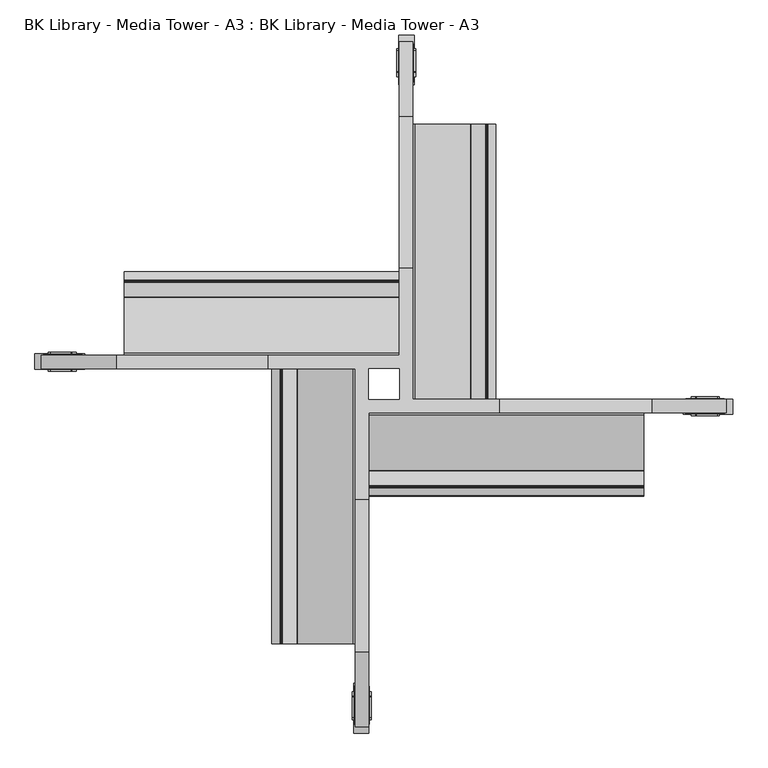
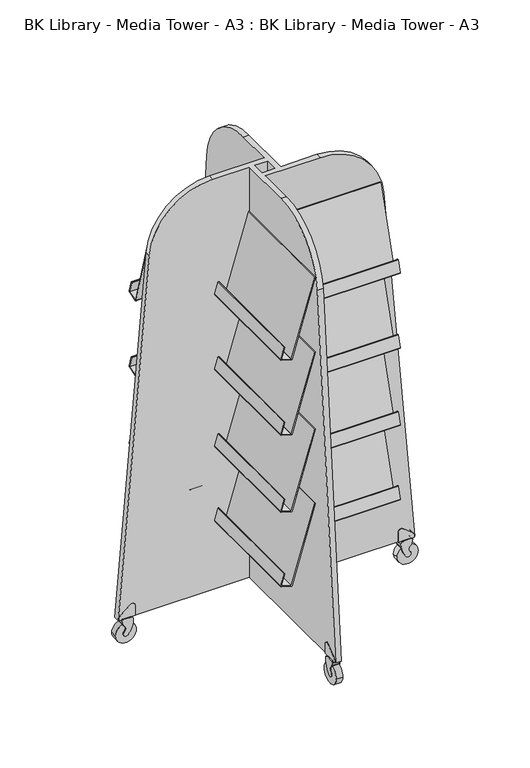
"""IFC4 building model written with IfcOpenShell, lengths in millimetres: furniture geometry, BK Library - Media Tower - A3 : BK Library - Media Tower - A3."""

from ifc_helpers import new_model, si_unit, point, frame, frame_2d, origin, place, context, project, spatial, polyline, circle_curve, trimmed, segment, composite_curve, outline, extrude, source, transform, mapped, element, save
from ifc_brep_helpers import plane_surface, cylinder_surface, advanced_brep


def bk_library_media_tower_a3_bk_library_media_tower_a3_d0b234ae(model_context):
    return source(origin(), model_context, "Body", "SolidModel", [
        advanced_brep(
        [(23.9997531, -23.9998872, 1726.129232), (23.9997531, 23.9997531, 1726.129232), (23.9997531, 23.9997531, 96.1292341), (23.9997531, -23.9998872, 96.1292341), (23.9997531, 181.3900437, 1726.129232), (23.9997531, 420.5618014, 1506.0508363), (23.9997531, 537.9999993, 96.1292341), (23.9997531, 44.9998628, 96.1292341), (23.9997531, 44.9998628, 1726.129232), (44.9998628, -23.9998872, 96.1292341), (44.9998628, 537.9999993, 96.1292341), (44.9998628, 420.5618014, 1506.0508363), (44.9998628, 181.3900437, 1726.129232), (44.9998628, -23.9998872, 1726.129232), (537.9999993, -23.9997531, 96.1292341), (537.9999993, -44.9998628, 96.1292341), (-23.9998872, -44.9998628, 96.1292341), (-23.9997531, -537.9999993, 96.1292341), (-44.9998628, -537.9999993, 96.1292341), (-44.9998628, 23.9998872, 96.1292341), (-537.9999993, 23.9997531, 96.1292341), (-537.9999993, 44.9998628, 96.1292341), (-23.9997531, 23.9998872, 96.1292341), (-23.9997531, -23.9997531, 96.1292341), (-181.3900437, 44.9998628, 1726.129232), (-181.3900437, 23.9997531, 1726.129232), (-44.9998628, 23.9997531, 1726.129232), (-44.9998628, -181.3900437, 1726.129232), (-23.9997531, -181.3900437, 1726.129232), (-23.9997531, -44.9998628, 1726.129232), (181.3900437, -44.9998628, 1726.129232), (181.3900437, -23.9997531, 1726.129232), (-23.9998872, -23.9997531, 1726.129232), (-23.9997531, 23.9998872, 1726.129232), (-420.5618014, 23.9997531, 1506.0508363), (-420.5618014, 44.9998628, 1506.0508363), (-23.9997531, -420.5618014, 1506.0508363), (-44.9998628, -420.5618014, 1506.0508363), (420.5618014, -23.9997531, 1506.0508363), (420.5618014, -44.9998628, 1506.0508363)],
        [
            (0, 1),
            (1, 2),
            (2, 3),
            (3, 0),
            (4, 5, circle_curve(frame((23.9997531, 181.3900437, 1486.129232), z_axis=(-1.0, 0.0, 0.0), x_axis=(0.0, -1.0, 0.0)), 240.0)),
            (5, 6),
            (6, 7),
            (7, 8),
            (8, 4),
            (9, 10),
            (10, 11),
            (11, 12, circle_curve(frame((44.9998628, 181.3900437, 1486.129232), z_axis=(1.0, 0.0, 0.0), x_axis=(0.0, -1.0, 0.0)), 240.0)),
            (12, 13),
            (13, 9),
            (9, 14),
            (14, 15),
            (15, 16),
            (16, 17),
            (17, 18),
            (18, 19),
            (19, 20),
            (20, 21),
            (21, 7),
            (6, 10),
            (22, 23),
            (23, 3),
            (2, 22),
            (12, 4),
            (8, 24),
            (24, 25),
            (25, 26),
            (26, 27),
            (27, 28),
            (28, 29),
            (29, 30),
            (30, 31),
            (31, 13),
            (0, 32),
            (32, 33),
            (33, 1),
            (33, 22),
            (25, 34, circle_curve(frame((-181.3900437, 23.9997531, 1486.129232), z_axis=(0.0, -1.0, 0.0), x_axis=(1.0, 0.0, 0.0)), 240.0)),
            (34, 20),
            (19, 26),
            (21, 35),
            (35, 24, circle_curve(frame((-181.3900437, 44.9998628, 1486.129232), z_axis=(0.0, 1.0, 0.0), x_axis=(1.0, 0.0, 0.0)), 240.0)),
            (32, 23),
            (28, 36, circle_curve(frame((-23.9997531, -181.3900437, 1486.129232), z_axis=(1.0, 0.0, 0.0), x_axis=(0.0, 1.0, 0.0)), 240.0)),
            (36, 17),
            (16, 29),
            (18, 37),
            (37, 27, circle_curve(frame((-44.9998628, -181.3900437, 1486.129232), z_axis=(-1.0, 0.0, 0.0), x_axis=(0.0, 1.0, 0.0)), 240.0)),
            (31, 38, circle_curve(frame((181.3900437, -23.9997531, 1486.129232), z_axis=(0.0, 1.0, 0.0), x_axis=(-1.0, 0.0, 0.0)), 240.0)),
            (38, 14),
            (15, 39),
            (39, 30, circle_curve(frame((181.3900437, -44.9998628, 1486.129232), z_axis=(0.0, -1.0, 0.0), x_axis=(-1.0, 0.0, 0.0)), 240.0)),
            (35, 34),
            (11, 5),
            (37, 36),
            (39, 38),
        ],
        [
            plane_surface(frame((23.9997531, -23.9998872, 1048.4828092), z_axis=(-1.0, 0.0, 0.0), x_axis=(0.0, 0.0, 1.0))),
            plane_surface(frame((44.9998628, -23.9998872, 1048.4828092), z_axis=(1.0, 0.0, 0.0), x_axis=(0.0, 0.0, -1.0))),
            plane_surface(frame((23.9997531, 537.9999993, 96.1292341), z_axis=(0.0, 0.0, -1.0), x_axis=(1.0, 0.0, 0.0))),
            plane_surface(frame((23.9997531, -23.9998872, 1726.129232), z_axis=(0.0, 0.0, 1.0), x_axis=(1.0, 0.0, 0.0))),
            plane_surface(frame((23.9998872, 23.9997531, 1048.4828092), z_axis=(0.0, -1.0, 0.0), x_axis=(0.0, 0.0, 1.0))),
            plane_surface(frame((23.9998872, 44.9998628, 1048.4828092), z_axis=(0.0, 1.0, 0.0), x_axis=(0.0, 0.0, -1.0))),
            plane_surface(frame((-23.9997531, 23.9998872, 1048.4828092), z_axis=(1.0, 0.0, 0.0), x_axis=(0.0, 0.0, 1.0))),
            plane_surface(frame((-44.9998628, 23.9998872, 1048.4828092), z_axis=(-1.0, 0.0, 0.0), x_axis=(0.0, 0.0, -1.0))),
            plane_surface(frame((-23.9998872, -23.9997531, 1048.4828092), z_axis=(0.0, 1.0, 0.0), x_axis=(0.0, 0.0, 1.0))),
            plane_surface(frame((-23.9998872, -44.9998628, 1048.4828092), z_axis=(0.0, -1.0, 0.0), x_axis=(0.0, 0.0, -1.0))),
            cylinder_surface(frame((-181.3900437, 44.9998628, 1486.129232), z_axis=(0.0, -1.0, 0.0), x_axis=(1.0, 0.0, 0.0)), 240.0),
            plane_surface(frame((-420.5618014, 23.9997531, 1506.0508363), z_axis=(-0.9965489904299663, 0.0, 0.08300668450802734), x_axis=(0.0, 1.0, 0.0))),
            cylinder_surface(frame((44.9998628, 181.3900437, 1486.129232), z_axis=(-1.0, 0.0, 0.0), x_axis=(0.0, -1.0, 0.0)), 240.0),
            plane_surface(frame((23.9997531, 420.5618014, 1506.0508363), z_axis=(0.0, 0.9965489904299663, 0.08300668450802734), x_axis=(1.0, 0.0, 0.0))),
            cylinder_surface(frame((-44.9998628, -181.3900437, 1486.129232), z_axis=(1.0, 0.0, 0.0), x_axis=(0.0, 1.0, 0.0)), 240.0),
            plane_surface(frame((-23.9997531, -420.5618014, 1506.0508363), z_axis=(0.0, -0.9965489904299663, 0.08300668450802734), x_axis=(-1.0, 0.0, 0.0))),
            cylinder_surface(frame((181.3900437, -44.9998628, 1486.129232), z_axis=(0.0, 1.0, 0.0), x_axis=(-1.0, 0.0, 0.0)), 240.0),
            plane_surface(frame((420.5618014, -23.9997531, 1506.0508363), z_axis=(0.9965489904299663, 0.0, 0.08300668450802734), x_axis=(0.0, -1.0, 0.0))),
        ],
        [
            (0, [[1, 2, 3, 4]]),
            (0, [[5, 6, 7, 8, 9]]),
            (1, [[10, 11, 12, 13, 14]]),
            (2, [[-10, 15, 16, 17, 18, 19, 20, 21, 22, 23, -7, 24], [25, 26, -3, 27]]),
            (3, [[-13, 28, -9, 29, 30, 31, 32, 33, 34, 35, 36, 37], [-1, 38, 39, 40]]),
            (4, [[-2, -40, 41, -27]]),
            (4, [[42, 43, -21, 44, -31]]),
            (5, [[-23, 45, 46, -29, -8]]),
            (6, [[-41, -39, 47, -25]]),
            (6, [[48, 49, -18, 50, -34]]),
            (7, [[-20, 51, 52, -32, -44]]),
            (8, [[-26, -47, -38, -4]]),
            (8, [[53, 54, -15, -14, -37]]),
            (9, [[-17, 55, 56, -35, -50]]),
            (10, [[-42, -30, -46, 57]]),
            (11, [[-43, -57, -45, -22]]),
            (12, [[-5, -28, -12, 58]]),
            (13, [[-6, -58, -11, -24]]),
            (14, [[-48, -33, -52, 59]]),
            (15, [[-49, -59, -51, -19]]),
            (16, [[-53, -36, -56, 60]]),
            (17, [[-54, -60, -55, -16]]),
        ],
    ),
        extrude(outline(composite_curve([segment(trimmed(circle_curve(frame_2d((135.7205624, 357.3406391)), 3.0), [point((136.5748622, 354.4648484))], [point((132.8447717, 356.4863392))], False, "CARTESIAN"), True, "CONTINUOUS"), segment(polyline([(132.8447717, 356.4863392), (45.3958539, 650.8616489), (40.9645842, 650.8616489), (40.9645842, 652.1310184), (48.1483415, 652.1310184), (135.5781791, 357.8199375)]), True, "CONTINUOUS"), segment(trimmed(circle_curve(frame_2d((136.0574775, 357.9623208)), 0.5), [point((135.5781791, 357.8199375))], [point((136.1998608, 357.4830224))], True, "CARTESIAN"), True, "CONTINUOUS"), segment(polyline([(136.1998608, 357.4830224), (173.0458936, 368.4287287), (160.035737, 412.2242265)]), True, "CONTINUOUS"), segment(trimmed(circle_curve(frame_2d((160.5150354, 412.3666098)), 0.5), [point((160.035737, 412.2242265))], [point((160.3726521, 412.8459082))], False, "CARTESIAN"), True, "CONTINUOUS"), segment(polyline([(160.3726521, 412.8459082), (162.2898458, 413.4154415)]), True, "CONTINUOUS"), segment(trimmed(circle_curve(frame_2d((162.4322292, 412.936143)), 0.5), [point((162.2898458, 413.4154415))], [point((162.9115276, 413.0785263))], False, "CARTESIAN"), True, "CONTINUOUS"), segment(polyline([(162.9115276, 413.0785263), (175.9216842, 369.2830286)]), True, "CONTINUOUS"), segment(trimmed(circle_curve(frame_2d((173.0458936, 368.4287287)), 3.0), [point((175.9216842, 369.2830286))], [point((173.9001934, 365.5529381))], False, "CARTESIAN"), True, "CONTINUOUS"), segment(polyline([(173.9001934, 365.5529381), (136.5748622, 354.4648484)]), True, "CONTINUOUS")], self_intersect=False)), frame((-407.8772926, 0.0, 0.0), z_axis=(1.0, 0.0, 0.0), x_axis=(0.0, 1.0, 0.0)), (0.0, 0.0, 1.0), 431.8770457),
        extrude(outline(composite_curve([segment(trimmed(circle_curve(frame_2d((135.7205624, 653.0401568)), 3.0), [point((136.5748622, 650.1643662))], [point((132.8447717, 652.185857))], False, "CARTESIAN"), True, "CONTINUOUS"), segment(polyline([(132.8447717, 652.185857), (45.3958539, 946.5611666), (40.9645842, 946.5611666), (40.9645842, 947.8305361), (48.1483415, 947.8305361), (135.5781791, 653.5194552)]), True, "CONTINUOUS"), segment(trimmed(circle_curve(frame_2d((136.0574775, 653.6618385)), 0.5), [point((135.5781791, 653.5194552))], [point((136.1998608, 653.1825401))], True, "CARTESIAN"), True, "CONTINUOUS"), segment(polyline([(136.1998608, 653.1825401), (173.0458936, 664.1282464), (160.035737, 707.9237442)]), True, "CONTINUOUS"), segment(trimmed(circle_curve(frame_2d((160.5150354, 708.0661275)), 0.5), [point((160.035737, 707.9237442))], [point((160.3726521, 708.545426))], False, "CARTESIAN"), True, "CONTINUOUS"), segment(polyline([(160.3726521, 708.545426), (162.2898458, 709.1149592)]), True, "CONTINUOUS"), segment(trimmed(circle_curve(frame_2d((162.4322292, 708.6356607)), 0.5), [point((162.2898458, 709.1149592))], [point((162.9115276, 708.778044))], False, "CARTESIAN"), True, "CONTINUOUS"), segment(polyline([(162.9115276, 708.778044), (175.9216842, 664.9825463)]), True, "CONTINUOUS"), segment(trimmed(circle_curve(frame_2d((173.0458936, 664.1282464)), 3.0), [point((175.9216842, 664.9825463))], [point((173.9001934, 661.2524558))], False, "CARTESIAN"), True, "CONTINUOUS"), segment(polyline([(173.9001934, 661.2524558), (136.5748622, 650.1643662)]), True, "CONTINUOUS")], self_intersect=False)), frame((-407.8772926, 0.0, 0.0), z_axis=(1.0, 0.0, 0.0), x_axis=(0.0, 1.0, 0.0)), (0.0, 0.0, 1.0), 431.8770457),
        extrude(outline(composite_curve([segment(trimmed(circle_curve(frame_2d((135.7205624, 958.9406154)), 3.0), [point((136.5748622, 956.0648248))], [point((132.8447717, 958.0863156))], False, "CARTESIAN"), True, "CONTINUOUS"), segment(polyline([(132.8447717, 958.0863156), (45.3958539, 1252.4616252), (40.9645842, 1252.4616252), (40.9645842, 1253.7309947), (48.1483415, 1253.7309947), (135.5781791, 959.4199139)]), True, "CONTINUOUS"), segment(trimmed(circle_curve(frame_2d((136.0574775, 959.5622972)), 0.5), [point((135.5781791, 959.4199139))], [point((136.1998608, 959.0829987))], True, "CARTESIAN"), True, "CONTINUOUS"), segment(polyline([(136.1998608, 959.0829987), (173.0458936, 970.028705), (160.035737, 1013.8242028)]), True, "CONTINUOUS"), segment(trimmed(circle_curve(frame_2d((160.5150354, 1013.9665861)), 0.5), [point((160.035737, 1013.8242028))], [point((160.3726521, 1014.4458846))], False, "CARTESIAN"), True, "CONTINUOUS"), segment(polyline([(160.3726521, 1014.4458846), (162.2898458, 1015.0154178)]), True, "CONTINUOUS"), segment(trimmed(circle_curve(frame_2d((162.4322292, 1014.5361193)), 0.5), [point((162.2898458, 1015.0154178))], [point((162.9115276, 1014.6785027))], False, "CARTESIAN"), True, "CONTINUOUS"), segment(polyline([(162.9115276, 1014.6785027), (175.9216842, 970.8830049)]), True, "CONTINUOUS"), segment(trimmed(circle_curve(frame_2d((173.0458936, 970.028705)), 3.0), [point((175.9216842, 970.8830049))], [point((173.9001934, 967.1529144))], False, "CARTESIAN"), True, "CONTINUOUS"), segment(polyline([(173.9001934, 967.1529144), (136.5748622, 956.0648248)]), True, "CONTINUOUS")], self_intersect=False)), frame((-407.8772926, 0.0, 0.0), z_axis=(1.0, 0.0, 0.0), x_axis=(0.0, 1.0, 0.0)), (0.0, 0.0, 1.0), 431.8770457),
        extrude(outline(composite_curve([segment(trimmed(circle_curve(frame_2d((135.7205624, 1256.9405944)), 3.0), [point((136.5748622, 1254.0648038))], [point((132.8447717, 1256.0862946))], False, "CARTESIAN"), True, "CONTINUOUS"), segment(polyline([(132.8447717, 1256.0862946), (45.3958539, 1550.4616043), (40.9645842, 1550.4616043), (40.9645842, 1551.7309738), (48.1483415, 1551.7309738), (135.5781791, 1257.4198929)]), True, "CONTINUOUS"), segment(trimmed(circle_curve(frame_2d((136.0574775, 1257.5622762)), 0.5), [point((135.5781791, 1257.4198929))], [point((136.1998608, 1257.0829777))], True, "CARTESIAN"), True, "CONTINUOUS"), segment(polyline([(136.1998608, 1257.0829777), (173.0458936, 1268.0286841), (160.035737, 1311.8241818)]), True, "CONTINUOUS"), segment(trimmed(circle_curve(frame_2d((160.5150354, 1311.9665651)), 0.5), [point((160.035737, 1311.8241818))], [point((160.3726521, 1312.4458636))], False, "CARTESIAN"), True, "CONTINUOUS"), segment(polyline([(160.3726521, 1312.4458636), (162.2898458, 1313.0153968)]), True, "CONTINUOUS"), segment(trimmed(circle_curve(frame_2d((162.4322292, 1312.5360984)), 0.5), [point((162.2898458, 1313.0153968))], [point((162.9115276, 1312.6784817))], False, "CARTESIAN"), True, "CONTINUOUS"), segment(polyline([(162.9115276, 1312.6784817), (175.9216842, 1268.8829839)]), True, "CONTINUOUS"), segment(trimmed(circle_curve(frame_2d((173.0458936, 1268.0286841)), 3.0), [point((175.9216842, 1268.8829839))], [point((173.9001934, 1265.1528934))], False, "CARTESIAN"), True, "CONTINUOUS"), segment(polyline([(173.9001934, 1265.1528934), (136.5748622, 1254.0648038)]), True, "CONTINUOUS")], self_intersect=False)), frame((-407.8772926, 0.0, 0.0), z_axis=(1.0, 0.0, 0.0), x_axis=(0.0, 1.0, 0.0)), (0.0, 0.0, 1.0), 431.8770457),
        extrude(outline(composite_curve([segment(polyline([(354.4648484, 136.5748622), (365.5529381, 173.9001934)]), True, "CONTINUOUS"), segment(trimmed(circle_curve(frame_2d((368.4287287, 173.0458936)), 3.0), [point((365.5529381, 173.9001934))], [point((369.2830286, 175.9216842))], False, "CARTESIAN"), True, "CONTINUOUS"), segment(polyline([(369.2830286, 175.9216842), (413.0785263, 162.9115276)]), True, "CONTINUOUS"), segment(trimmed(circle_curve(frame_2d((412.936143, 162.4322292)), 0.5), [point((413.0785263, 162.9115276))], [point((413.4154415, 162.2898458))], False, "CARTESIAN"), True, "CONTINUOUS"), segment(polyline([(413.4154415, 162.2898458), (412.8459082, 160.3726521)]), True, "CONTINUOUS"), segment(trimmed(circle_curve(frame_2d((412.3666098, 160.5150354)), 0.5), [point((412.8459082, 160.3726521))], [point((412.2242265, 160.035737))], False, "CARTESIAN"), True, "CONTINUOUS"), segment(polyline([(412.2242265, 160.035737), (368.4287287, 173.0458936), (357.4830224, 136.1998608)]), True, "CONTINUOUS"), segment(trimmed(circle_curve(frame_2d((357.9623208, 136.0574775)), 0.5), [point((357.4830224, 136.1998608))], [point((357.8199375, 135.5781791))], True, "CARTESIAN"), True, "CONTINUOUS"), segment(polyline([(357.8199375, 135.5781791), (652.1310184, 48.1483415), (652.1310184, 40.9645842), (650.8616489, 40.9645842), (650.8616489, 45.3958539), (356.4863392, 132.8447717)]), True, "CONTINUOUS"), segment(trimmed(circle_curve(frame_2d((357.3406391, 135.7205624)), 3.0), [point((356.4863392, 132.8447717))], [point((354.4648484, 136.5748622))], False, "CARTESIAN"), True, "CONTINUOUS")], self_intersect=False)), frame((0.0, -23.9997531, 0.0), z_axis=(0.0, 1.0, 0.0), x_axis=(0.0, 0.0, 1.0)), (0.0, 0.0, 1.0), 431.8770457),
        extrude(outline(composite_curve([segment(polyline([(650.1643662, 136.5748622), (661.2524558, 173.9001934)]), True, "CONTINUOUS"), segment(trimmed(circle_curve(frame_2d((664.1282464, 173.0458936)), 3.0), [point((661.2524558, 173.9001934))], [point((664.9825463, 175.9216842))], False, "CARTESIAN"), True, "CONTINUOUS"), segment(polyline([(664.9825463, 175.9216842), (708.778044, 162.9115276)]), True, "CONTINUOUS"), segment(trimmed(circle_curve(frame_2d((708.6356607, 162.4322292)), 0.5), [point((708.778044, 162.9115276))], [point((709.1149592, 162.2898458))], False, "CARTESIAN"), True, "CONTINUOUS"), segment(polyline([(709.1149592, 162.2898458), (708.545426, 160.3726521)]), True, "CONTINUOUS"), segment(trimmed(circle_curve(frame_2d((708.0661275, 160.5150354)), 0.5), [point((708.545426, 160.3726521))], [point((707.9237442, 160.035737))], False, "CARTESIAN"), True, "CONTINUOUS"), segment(polyline([(707.9237442, 160.035737), (664.1282464, 173.0458936), (653.1825401, 136.1998608)]), True, "CONTINUOUS"), segment(trimmed(circle_curve(frame_2d((653.6618385, 136.0574775)), 0.5), [point((653.1825401, 136.1998608))], [point((653.5194552, 135.5781791))], True, "CARTESIAN"), True, "CONTINUOUS"), segment(polyline([(653.5194552, 135.5781791), (947.8305361, 48.1483415), (947.8305361, 40.9645842), (946.5611666, 40.9645842), (946.5611666, 45.3958539), (652.185857, 132.8447717)]), True, "CONTINUOUS"), segment(trimmed(circle_curve(frame_2d((653.0401568, 135.7205624)), 3.0), [point((652.185857, 132.8447717))], [point((650.1643662, 136.5748622))], False, "CARTESIAN"), True, "CONTINUOUS")], self_intersect=False)), frame((0.0, -23.9997531, 0.0), z_axis=(0.0, 1.0, 0.0), x_axis=(0.0, 0.0, 1.0)), (0.0, 0.0, 1.0), 431.8770457),
        extrude(outline(composite_curve([segment(polyline([(956.0648248, 136.5748622), (967.1529144, 173.9001934)]), True, "CONTINUOUS"), segment(trimmed(circle_curve(frame_2d((970.028705, 173.0458936)), 3.0), [point((967.1529144, 173.9001934))], [point((970.8830049, 175.9216842))], False, "CARTESIAN"), True, "CONTINUOUS"), segment(polyline([(970.8830049, 175.9216842), (1014.6785027, 162.9115276)]), True, "CONTINUOUS"), segment(trimmed(circle_curve(frame_2d((1014.5361193, 162.4322292)), 0.5), [point((1014.6785027, 162.9115276))], [point((1015.0154178, 162.2898458))], False, "CARTESIAN"), True, "CONTINUOUS"), segment(polyline([(1015.0154178, 162.2898458), (1014.4458846, 160.3726521)]), True, "CONTINUOUS"), segment(trimmed(circle_curve(frame_2d((1013.9665861, 160.5150354)), 0.5), [point((1014.4458846, 160.3726521))], [point((1013.8242028, 160.035737))], False, "CARTESIAN"), True, "CONTINUOUS"), segment(polyline([(1013.8242028, 160.035737), (970.028705, 173.0458936), (959.0829987, 136.1998608)]), True, "CONTINUOUS"), segment(trimmed(circle_curve(frame_2d((959.5622972, 136.0574775)), 0.5), [point((959.0829987, 136.1998608))], [point((959.4199139, 135.5781791))], True, "CARTESIAN"), True, "CONTINUOUS"), segment(polyline([(959.4199139, 135.5781791), (1253.7309947, 48.1483415), (1253.7309947, 40.9645842), (1252.4616252, 40.9645842), (1252.4616252, 45.3958539), (958.0863156, 132.8447717)]), True, "CONTINUOUS"), segment(trimmed(circle_curve(frame_2d((958.9406154, 135.7205624)), 3.0), [point((958.0863156, 132.8447717))], [point((956.0648248, 136.5748622))], False, "CARTESIAN"), True, "CONTINUOUS")], self_intersect=False)), frame((0.0, -23.9997531, 0.0), z_axis=(0.0, 1.0, 0.0), x_axis=(0.0, 0.0, 1.0)), (0.0, 0.0, 1.0), 431.8770457),
        extrude(outline(composite_curve([segment(polyline([(1254.0648038, 136.5748622), (1265.1528934, 173.9001934)]), True, "CONTINUOUS"), segment(trimmed(circle_curve(frame_2d((1268.0286841, 173.0458936)), 3.0), [point((1265.1528934, 173.9001934))], [point((1268.8829839, 175.9216842))], False, "CARTESIAN"), True, "CONTINUOUS"), segment(polyline([(1268.8829839, 175.9216842), (1312.6784817, 162.9115276)]), True, "CONTINUOUS"), segment(trimmed(circle_curve(frame_2d((1312.5360984, 162.4322292)), 0.5), [point((1312.6784817, 162.9115276))], [point((1313.0153968, 162.2898458))], False, "CARTESIAN"), True, "CONTINUOUS"), segment(polyline([(1313.0153968, 162.2898458), (1312.4458636, 160.3726521)]), True, "CONTINUOUS"), segment(trimmed(circle_curve(frame_2d((1311.9665651, 160.5150354)), 0.5), [point((1312.4458636, 160.3726521))], [point((1311.8241818, 160.035737))], False, "CARTESIAN"), True, "CONTINUOUS"), segment(polyline([(1311.8241818, 160.035737), (1268.0286841, 173.0458936), (1257.0829777, 136.1998608)]), True, "CONTINUOUS"), segment(trimmed(circle_curve(frame_2d((1257.5622762, 136.0574775)), 0.5), [point((1257.0829777, 136.1998608))], [point((1257.4198929, 135.5781791))], True, "CARTESIAN"), True, "CONTINUOUS"), segment(polyline([(1257.4198929, 135.5781791), (1551.7309738, 48.1483415), (1551.7309738, 40.9645842), (1550.4616043, 40.9645842), (1550.4616043, 45.3958539), (1256.0862946, 132.8447717)]), True, "CONTINUOUS"), segment(trimmed(circle_curve(frame_2d((1256.9405944, 135.7205624)), 3.0), [point((1256.0862946, 132.8447717))], [point((1254.0648038, 136.5748622))], False, "CARTESIAN"), True, "CONTINUOUS")], self_intersect=False)), frame((0.0, -23.9997531, 0.0), z_axis=(0.0, 1.0, 0.0), x_axis=(0.0, 0.0, 1.0)), (0.0, 0.0, 1.0), 431.8770457),
        extrude(outline(composite_curve([segment(polyline([(-136.5748622, 354.4648484), (-173.9001934, 365.5529381)]), True, "CONTINUOUS"), segment(trimmed(circle_curve(frame_2d((-173.0458936, 368.4287287)), 3.0), [point((-173.9001934, 365.5529381))], [point((-175.9216842, 369.2830286))], False, "CARTESIAN"), True, "CONTINUOUS"), segment(polyline([(-175.9216842, 369.2830286), (-162.9115276, 413.0785263)]), True, "CONTINUOUS"), segment(trimmed(circle_curve(frame_2d((-162.4322292, 412.936143)), 0.5), [point((-162.9115276, 413.0785263))], [point((-162.2898458, 413.4154415))], False, "CARTESIAN"), True, "CONTINUOUS"), segment(polyline([(-162.2898458, 413.4154415), (-160.3726521, 412.8459082)]), True, "CONTINUOUS"), segment(trimmed(circle_curve(frame_2d((-160.5150354, 412.3666098)), 0.5), [point((-160.3726521, 412.8459082))], [point((-160.035737, 412.2242265))], False, "CARTESIAN"), True, "CONTINUOUS"), segment(polyline([(-160.035737, 412.2242265), (-173.0458936, 368.4287287), (-136.1998608, 357.4830224)]), True, "CONTINUOUS"), segment(trimmed(circle_curve(frame_2d((-136.0574775, 357.9623208)), 0.5), [point((-136.1998608, 357.4830224))], [point((-135.5781791, 357.8199375))], True, "CARTESIAN"), True, "CONTINUOUS"), segment(polyline([(-135.5781791, 357.8199375), (-48.1483415, 652.1310184), (-40.9645842, 652.1310184), (-40.9645842, 650.8616489), (-45.3958539, 650.8616489), (-132.8447717, 356.4863392)]), True, "CONTINUOUS"), segment(trimmed(circle_curve(frame_2d((-135.7205624, 357.3406391)), 3.0), [point((-132.8447717, 356.4863392))], [point((-136.5748622, 354.4648484))], False, "CARTESIAN"), True, "CONTINUOUS")], self_intersect=False)), frame((-23.9997531, 0.0, 0.0), z_axis=(1.0, 0.0, 0.0), x_axis=(0.0, 1.0, 0.0)), (0.0, 0.0, 1.0), 431.8770457),
        extrude(outline(composite_curve([segment(polyline([(-136.5748622, 650.1643662), (-173.9001934, 661.2524558)]), True, "CONTINUOUS"), segment(trimmed(circle_curve(frame_2d((-173.0458936, 664.1282464)), 3.0), [point((-173.9001934, 661.2524558))], [point((-175.9216842, 664.9825463))], False, "CARTESIAN"), True, "CONTINUOUS"), segment(polyline([(-175.9216842, 664.9825463), (-162.9115276, 708.778044)]), True, "CONTINUOUS"), segment(trimmed(circle_curve(frame_2d((-162.4322292, 708.6356607)), 0.5), [point((-162.9115276, 708.778044))], [point((-162.2898458, 709.1149592))], False, "CARTESIAN"), True, "CONTINUOUS"), segment(polyline([(-162.2898458, 709.1149592), (-160.3726521, 708.545426)]), True, "CONTINUOUS"), segment(trimmed(circle_curve(frame_2d((-160.5150354, 708.0661275)), 0.5), [point((-160.3726521, 708.545426))], [point((-160.035737, 707.9237442))], False, "CARTESIAN"), True, "CONTINUOUS"), segment(polyline([(-160.035737, 707.9237442), (-173.0458936, 664.1282464), (-136.1998608, 653.1825401)]), True, "CONTINUOUS"), segment(trimmed(circle_curve(frame_2d((-136.0574775, 653.6618385)), 0.5), [point((-136.1998608, 653.1825401))], [point((-135.5781791, 653.5194552))], True, "CARTESIAN"), True, "CONTINUOUS"), segment(polyline([(-135.5781791, 653.5194552), (-48.1483415, 947.8305361), (-40.9645842, 947.8305361), (-40.9645842, 946.5611666), (-45.3958539, 946.5611666), (-132.8447717, 652.185857)]), True, "CONTINUOUS"), segment(trimmed(circle_curve(frame_2d((-135.7205624, 653.0401568)), 3.0), [point((-132.8447717, 652.185857))], [point((-136.5748622, 650.1643662))], False, "CARTESIAN"), True, "CONTINUOUS")], self_intersect=False)), frame((-23.9997531, 0.0, 0.0), z_axis=(1.0, 0.0, 0.0), x_axis=(0.0, 1.0, 0.0)), (0.0, 0.0, 1.0), 431.8770457),
        extrude(outline(composite_curve([segment(polyline([(-136.5748622, 956.0648248), (-173.9001934, 967.1529144)]), True, "CONTINUOUS"), segment(trimmed(circle_curve(frame_2d((-173.0458936, 970.028705)), 3.0), [point((-173.9001934, 967.1529144))], [point((-175.9216842, 970.8830049))], False, "CARTESIAN"), True, "CONTINUOUS"), segment(polyline([(-175.9216842, 970.8830049), (-162.9115276, 1014.6785027)]), True, "CONTINUOUS"), segment(trimmed(circle_curve(frame_2d((-162.4322292, 1014.5361193)), 0.5), [point((-162.9115276, 1014.6785027))], [point((-162.2898458, 1015.0154178))], False, "CARTESIAN"), True, "CONTINUOUS"), segment(polyline([(-162.2898458, 1015.0154178), (-160.3726521, 1014.4458846)]), True, "CONTINUOUS"), segment(trimmed(circle_curve(frame_2d((-160.5150354, 1013.9665861)), 0.5), [point((-160.3726521, 1014.4458846))], [point((-160.035737, 1013.8242028))], False, "CARTESIAN"), True, "CONTINUOUS"), segment(polyline([(-160.035737, 1013.8242028), (-173.0458936, 970.028705), (-136.1998608, 959.0829987)]), True, "CONTINUOUS"), segment(trimmed(circle_curve(frame_2d((-136.0574775, 959.5622972)), 0.5), [point((-136.1998608, 959.0829987))], [point((-135.5781791, 959.4199139))], True, "CARTESIAN"), True, "CONTINUOUS"), segment(polyline([(-135.5781791, 959.4199139), (-48.1483415, 1253.7309947), (-40.9645842, 1253.7309947), (-40.9645842, 1252.4616252), (-45.3958539, 1252.4616252), (-132.8447717, 958.0863156)]), True, "CONTINUOUS"), segment(trimmed(circle_curve(frame_2d((-135.7205624, 958.9406154)), 3.0), [point((-132.8447717, 958.0863156))], [point((-136.5748622, 956.0648248))], False, "CARTESIAN"), True, "CONTINUOUS")], self_intersect=False)), frame((-23.9997531, 0.0, 0.0), z_axis=(1.0, 0.0, 0.0), x_axis=(0.0, 1.0, 0.0)), (0.0, 0.0, 1.0), 431.8770457),
        extrude(outline(composite_curve([segment(polyline([(-136.5748622, 1254.0648038), (-173.9001934, 1265.1528934)]), True, "CONTINUOUS"), segment(trimmed(circle_curve(frame_2d((-173.0458936, 1268.0286841)), 3.0), [point((-173.9001934, 1265.1528934))], [point((-175.9216842, 1268.8829839))], False, "CARTESIAN"), True, "CONTINUOUS"), segment(polyline([(-175.9216842, 1268.8829839), (-162.9115276, 1312.6784817)]), True, "CONTINUOUS"), segment(trimmed(circle_curve(frame_2d((-162.4322292, 1312.5360984)), 0.5), [point((-162.9115276, 1312.6784817))], [point((-162.2898458, 1313.0153968))], False, "CARTESIAN"), True, "CONTINUOUS"), segment(polyline([(-162.2898458, 1313.0153968), (-160.3726521, 1312.4458636)]), True, "CONTINUOUS"), segment(trimmed(circle_curve(frame_2d((-160.5150354, 1311.9665651)), 0.5), [point((-160.3726521, 1312.4458636))], [point((-160.035737, 1311.8241818))], False, "CARTESIAN"), True, "CONTINUOUS"), segment(polyline([(-160.035737, 1311.8241818), (-173.0458936, 1268.0286841), (-136.1998608, 1257.0829777)]), True, "CONTINUOUS"), segment(trimmed(circle_curve(frame_2d((-136.0574775, 1257.5622762)), 0.5), [point((-136.1998608, 1257.0829777))], [point((-135.5781791, 1257.4198929))], True, "CARTESIAN"), True, "CONTINUOUS"), segment(polyline([(-135.5781791, 1257.4198929), (-48.1483415, 1551.7309738), (-40.9645842, 1551.7309738), (-40.9645842, 1550.4616043), (-45.3958539, 1550.4616043), (-132.8447717, 1256.0862946)]), True, "CONTINUOUS"), segment(trimmed(circle_curve(frame_2d((-135.7205624, 1256.9405944)), 3.0), [point((-132.8447717, 1256.0862946))], [point((-136.5748622, 1254.0648038))], False, "CARTESIAN"), True, "CONTINUOUS")], self_intersect=False)), frame((-23.9997531, 0.0, 0.0), z_axis=(1.0, 0.0, 0.0), x_axis=(0.0, 1.0, 0.0)), (0.0, 0.0, 1.0), 431.8770457),
        extrude(outline(composite_curve([segment(trimmed(circle_curve(frame_2d((357.3406391, -135.7205624)), 3.0), [point((354.4648484, -136.5748622))], [point((356.4863392, -132.8447717))], False, "CARTESIAN"), True, "CONTINUOUS"), segment(polyline([(356.4863392, -132.8447717), (650.8616489, -45.3958539), (650.8616489, -40.9645842), (652.1310184, -40.9645842), (652.1310184, -48.1483415), (357.8199375, -135.5781791)]), True, "CONTINUOUS"), segment(trimmed(circle_curve(frame_2d((357.9623208, -136.0574775)), 0.5), [point((357.8199375, -135.5781791))], [point((357.4830224, -136.1998608))], True, "CARTESIAN"), True, "CONTINUOUS"), segment(polyline([(357.4830224, -136.1998608), (368.4287287, -173.0458936), (412.2242265, -160.035737)]), True, "CONTINUOUS"), segment(trimmed(circle_curve(frame_2d((412.3666098, -160.5150354)), 0.5), [point((412.2242265, -160.035737))], [point((412.8459082, -160.3726521))], False, "CARTESIAN"), True, "CONTINUOUS"), segment(polyline([(412.8459082, -160.3726521), (413.4154415, -162.2898458)]), True, "CONTINUOUS"), segment(trimmed(circle_curve(frame_2d((412.936143, -162.4322292)), 0.5), [point((413.4154415, -162.2898458))], [point((413.0785263, -162.9115276))], False, "CARTESIAN"), True, "CONTINUOUS"), segment(polyline([(413.0785263, -162.9115276), (369.2830286, -175.9216842)]), True, "CONTINUOUS"), segment(trimmed(circle_curve(frame_2d((368.4287287, -173.0458936)), 3.0), [point((369.2830286, -175.9216842))], [point((365.5529381, -173.9001934))], False, "CARTESIAN"), True, "CONTINUOUS"), segment(polyline([(365.5529381, -173.9001934), (354.4648484, -136.5748622)]), True, "CONTINUOUS")], self_intersect=False)), frame((0.0, -407.8772926, 0.0), z_axis=(0.0, 1.0, 0.0), x_axis=(0.0, 0.0, 1.0)), (0.0, 0.0, 1.0), 431.8770457),
        extrude(outline(composite_curve([segment(trimmed(circle_curve(frame_2d((653.0401568, -135.7205624)), 3.0), [point((650.1643662, -136.5748622))], [point((652.185857, -132.8447717))], False, "CARTESIAN"), True, "CONTINUOUS"), segment(polyline([(652.185857, -132.8447717), (946.5611666, -45.3958539), (946.5611666, -40.9645842), (947.8305361, -40.9645842), (947.8305361, -48.1483415), (653.5194552, -135.5781791)]), True, "CONTINUOUS"), segment(trimmed(circle_curve(frame_2d((653.6618385, -136.0574775)), 0.5), [point((653.5194552, -135.5781791))], [point((653.1825401, -136.1998608))], True, "CARTESIAN"), True, "CONTINUOUS"), segment(polyline([(653.1825401, -136.1998608), (664.1282464, -173.0458936), (707.9237442, -160.035737)]), True, "CONTINUOUS"), segment(trimmed(circle_curve(frame_2d((708.0661275, -160.5150354)), 0.5), [point((707.9237442, -160.035737))], [point((708.545426, -160.3726521))], False, "CARTESIAN"), True, "CONTINUOUS"), segment(polyline([(708.545426, -160.3726521), (709.1149592, -162.2898458)]), True, "CONTINUOUS"), segment(trimmed(circle_curve(frame_2d((708.6356607, -162.4322292)), 0.5), [point((709.1149592, -162.2898458))], [point((708.778044, -162.9115276))], False, "CARTESIAN"), True, "CONTINUOUS"), segment(polyline([(708.778044, -162.9115276), (664.9825463, -175.9216842)]), True, "CONTINUOUS"), segment(trimmed(circle_curve(frame_2d((664.1282464, -173.0458936)), 3.0), [point((664.9825463, -175.9216842))], [point((661.2524558, -173.9001934))], False, "CARTESIAN"), True, "CONTINUOUS"), segment(polyline([(661.2524558, -173.9001934), (650.1643662, -136.5748622)]), True, "CONTINUOUS")], self_intersect=False)), frame((0.0, -407.8772926, 0.0), z_axis=(0.0, 1.0, 0.0), x_axis=(0.0, 0.0, 1.0)), (0.0, 0.0, 1.0), 431.8770457),
        extrude(outline(composite_curve([segment(trimmed(circle_curve(frame_2d((958.9406154, -135.7205624)), 3.0), [point((956.0648248, -136.5748622))], [point((958.0863156, -132.8447717))], False, "CARTESIAN"), True, "CONTINUOUS"), segment(polyline([(958.0863156, -132.8447717), (1252.4616252, -45.3958539), (1252.4616252, -40.9645842), (1253.7309947, -40.9645842), (1253.7309947, -48.1483415), (959.4199139, -135.5781791)]), True, "CONTINUOUS"), segment(trimmed(circle_curve(frame_2d((959.5622972, -136.0574775)), 0.5), [point((959.4199139, -135.5781791))], [point((959.0829987, -136.1998608))], True, "CARTESIAN"), True, "CONTINUOUS"), segment(polyline([(959.0829987, -136.1998608), (970.028705, -173.0458936), (1013.8242028, -160.035737)]), True, "CONTINUOUS"), segment(trimmed(circle_curve(frame_2d((1013.9665861, -160.5150354)), 0.5), [point((1013.8242028, -160.035737))], [point((1014.4458846, -160.3726521))], False, "CARTESIAN"), True, "CONTINUOUS"), segment(polyline([(1014.4458846, -160.3726521), (1015.0154178, -162.2898458)]), True, "CONTINUOUS"), segment(trimmed(circle_curve(frame_2d((1014.5361193, -162.4322292)), 0.5), [point((1015.0154178, -162.2898458))], [point((1014.6785027, -162.9115276))], False, "CARTESIAN"), True, "CONTINUOUS"), segment(polyline([(1014.6785027, -162.9115276), (970.8830049, -175.9216842)]), True, "CONTINUOUS"), segment(trimmed(circle_curve(frame_2d((970.028705, -173.0458936)), 3.0), [point((970.8830049, -175.9216842))], [point((967.1529144, -173.9001934))], False, "CARTESIAN"), True, "CONTINUOUS"), segment(polyline([(967.1529144, -173.9001934), (956.0648248, -136.5748622)]), True, "CONTINUOUS")], self_intersect=False)), frame((0.0, -407.8772926, 0.0), z_axis=(0.0, 1.0, 0.0), x_axis=(0.0, 0.0, 1.0)), (0.0, 0.0, 1.0), 431.8770457),
        extrude(outline(composite_curve([segment(trimmed(circle_curve(frame_2d((1256.9405944, -135.7205624)), 3.0), [point((1254.0648038, -136.5748622))], [point((1256.0862946, -132.8447717))], False, "CARTESIAN"), True, "CONTINUOUS"), segment(polyline([(1256.0862946, -132.8447717), (1550.4616043, -45.3958539), (1550.4616043, -40.9645842), (1551.7309738, -40.9645842), (1551.7309738, -48.1483415), (1257.4198929, -135.5781791)]), True, "CONTINUOUS"), segment(trimmed(circle_curve(frame_2d((1257.5622762, -136.0574775)), 0.5), [point((1257.4198929, -135.5781791))], [point((1257.0829777, -136.1998608))], True, "CARTESIAN"), True, "CONTINUOUS"), segment(polyline([(1257.0829777, -136.1998608), (1268.0286841, -173.0458936), (1311.8241818, -160.035737)]), True, "CONTINUOUS"), segment(trimmed(circle_curve(frame_2d((1311.9665651, -160.5150354)), 0.5), [point((1311.8241818, -160.035737))], [point((1312.4458636, -160.3726521))], False, "CARTESIAN"), True, "CONTINUOUS"), segment(polyline([(1312.4458636, -160.3726521), (1313.0153968, -162.2898458)]), True, "CONTINUOUS"), segment(trimmed(circle_curve(frame_2d((1312.5360984, -162.4322292)), 0.5), [point((1313.0153968, -162.2898458))], [point((1312.6784817, -162.9115276))], False, "CARTESIAN"), True, "CONTINUOUS"), segment(polyline([(1312.6784817, -162.9115276), (1268.8829839, -175.9216842)]), True, "CONTINUOUS"), segment(trimmed(circle_curve(frame_2d((1268.0286841, -173.0458936)), 3.0), [point((1268.8829839, -175.9216842))], [point((1265.1528934, -173.9001934))], False, "CARTESIAN"), True, "CONTINUOUS"), segment(polyline([(1265.1528934, -173.9001934), (1254.0648038, -136.5748622)]), True, "CONTINUOUS")], self_intersect=False)), frame((0.0, -407.8772926, 0.0), z_axis=(0.0, 1.0, 0.0), x_axis=(0.0, 0.0, 1.0)), (0.0, 0.0, 1.0), 431.8770457),
        extrude(outline(composite_curve([segment(polyline([(-491.6029275, 94.9959094), (-489.9544778, 94.9959094)]), True, "CONTINUOUS"), segment(trimmed(circle_curve(frame_2d((-489.9544778, 87.8529476)), 7.1429618), [point((-489.9544778, 94.9959094))], [point((-482.8289159, 87.3546798))], False, "CARTESIAN"), True, "CONTINUOUS"), segment(polyline([(-482.8289159, 87.3546798), (-483.7634086, 73.9908122)]), True, "CONTINUOUS"), segment(trimmed(circle_curve(frame_2d((-544.5967417, 78.2446932)), 60.981882), [point((-483.7634086, 73.9908122))], [point((-493.4530322, 45.0315799))], False, "CARTESIAN"), True, "CONTINUOUS"), segment(polyline([(-493.4530322, 45.0315799), (-501.4769393, 32.6758463)]), True, "CONTINUOUS"), segment(trimmed(circle_curve(frame_2d((-510.2325762, 38.3618233)), 10.4399), [point((-501.4769393, 32.6758463))], [point((-517.2702194, 46.0730547))], False, "CARTESIAN"), True, "CONTINUOUS"), segment(trimmed(circle_curve(frame_2d((-527.3818728, 57.1525162)), 15.0), [point((-517.2702194, 46.0730547))], [point((-515.8912061, 66.7943303))], True, "CARTESIAN"), True, "CONTINUOUS"), segment(polyline([(-515.8912061, 66.7943303), (-520.7626915, 72.5999405)]), True, "CONTINUOUS"), segment(trimmed(circle_curve(frame_2d((-510.5801611, 81.144098)), 13.2923494), [point((-520.7626915, 72.5999405))], [point((-523.4776709, 77.9283876))], False, "CARTESIAN"), True, "CONTINUOUS"), segment(polyline([(-523.4776709, 77.9283876), (-526.8758155, 91.5576012)]), True, "CONTINUOUS"), segment(trimmed(circle_curve(frame_2d((-524.1895148, 92.2273712)), 2.7685382), [point((-526.8758155, 91.5576012))], [point((-524.1895148, 94.9959094))], False, "CARTESIAN"), True, "CONTINUOUS"), segment(polyline([(-524.1895148, 94.9959094), (-523.1741821, 94.9959094), (-523.1741821, 96.1292341), (-491.6029275, 96.1292341), (-491.6029275, 94.9959094)]), True, "CONTINUOUS")], self_intersect=False)), frame((-49.9327044, 0.0, 0.0), z_axis=(1.0, 0.0, 0.0), x_axis=(0.0, 1.0, 0.0)), (0.0, 0.0, 1.0), 30.0043179),
        extrude(outline(composite_curve([segment(trimmed(circle_curve(frame_2d((-508.9813387, 38.7532229)), 39.1502491), [point((-548.1315878, 38.7532229))], [point((-469.8310896, 38.7532229))], False, "CARTESIAN"), True, "CONTINUOUS"), segment(trimmed(circle_curve(frame_2d((-508.9813387, 38.7532229)), 39.1502491), [point((-469.8310896, 38.7532229))], [point((-548.1315878, 38.7532229))], False, "CARTESIAN"), True, "CONTINUOUS")], self_intersect=False)), frame((-47.732439, 0.0, 0.0), z_axis=(1.0, 0.0, 0.0), x_axis=(0.0, 1.0, 0.0)), (0.0, 0.0, 1.0), 24.2522905),
        extrude(outline(composite_curve([segment(polyline([(-529.6110783, 113.7741451), (-492.657096, 143.6201385)]), True, "CONTINUOUS"), segment(trimmed(circle_curve(frame_2d((-485.557096, 134.8292341)), 11.3), [point((-492.657096, 143.6201385))], [point((-474.257096, 134.8292341))], False, "CARTESIAN"), True, "CONTINUOUS"), segment(polyline([(-474.257096, 134.8292341), (-474.257096, 95.7870372), (-534.2568059, 95.7870372), (-534.257096, 104.0492545)]), True, "CONTINUOUS"), segment(trimmed(circle_curve(frame_2d((-521.757096, 104.0496933)), 12.5), [point((-534.257096, 104.0492545))], [point((-529.6110783, 113.7741451))], False, "CARTESIAN"), True, "CONTINUOUS")], self_intersect=False)), frame((-46.4770661, 0.0, 0.0), z_axis=(1.0, 0.0, 0.0), x_axis=(0.0, 1.0, 0.0)), (0.0, 0.0, 1.0), 23.3956787),
        extrude(outline(composite_curve([segment(polyline([(94.9959094, 491.6029275), (94.9959094, 489.9544778)]), True, "CONTINUOUS"), segment(trimmed(circle_curve(frame_2d((87.8529476, 489.9544778)), 7.1429618), [point((94.9959094, 489.9544778))], [point((87.3546798, 482.8289159))], False, "CARTESIAN"), True, "CONTINUOUS"), segment(polyline([(87.3546798, 482.8289159), (73.9908122, 483.7634086)]), True, "CONTINUOUS"), segment(trimmed(circle_curve(frame_2d((78.2446932, 544.5967417)), 60.981882), [point((73.9908122, 483.7634086))], [point((45.0315799, 493.4530322))], False, "CARTESIAN"), True, "CONTINUOUS"), segment(polyline([(45.0315799, 493.4530322), (32.6758463, 501.4769393)]), True, "CONTINUOUS"), segment(trimmed(circle_curve(frame_2d((38.3618233, 510.2325762)), 10.4399), [point((32.6758463, 501.4769393))], [point((46.0730547, 517.2702194))], False, "CARTESIAN"), True, "CONTINUOUS"), segment(trimmed(circle_curve(frame_2d((57.1525162, 527.3818728)), 15.0), [point((46.0730547, 517.2702194))], [point((66.7943303, 515.8912061))], True, "CARTESIAN"), True, "CONTINUOUS"), segment(polyline([(66.7943303, 515.8912061), (72.5999405, 520.7626915)]), True, "CONTINUOUS"), segment(trimmed(circle_curve(frame_2d((81.144098, 510.5801611)), 13.2923494), [point((72.5999405, 520.7626915))], [point((77.9283876, 523.4776709))], False, "CARTESIAN"), True, "CONTINUOUS"), segment(polyline([(77.9283876, 523.4776709), (91.5576012, 526.8758155)]), True, "CONTINUOUS"), segment(trimmed(circle_curve(frame_2d((92.2273712, 524.1895148)), 2.7685382), [point((91.5576012, 526.8758155))], [point((94.9959094, 524.1895148))], False, "CARTESIAN"), True, "CONTINUOUS"), segment(polyline([(94.9959094, 524.1895148), (94.9959094, 523.1741821), (96.1292341, 523.1741821), (96.1292341, 491.6029275), (94.9959094, 491.6029275)]), True, "CONTINUOUS")], self_intersect=False)), frame((0.0, -49.9327044, 0.0), z_axis=(0.0, 1.0, 0.0), x_axis=(0.0, 0.0, 1.0)), (0.0, 0.0, 1.0), 30.0043179),
        extrude(outline(composite_curve([segment(trimmed(circle_curve(frame_2d((38.7532229, 508.9813387)), 39.1502491), [point((38.7532229, 548.1315878))], [point((38.7532229, 469.8310896))], False, "CARTESIAN"), True, "CONTINUOUS"), segment(trimmed(circle_curve(frame_2d((38.7532229, 508.9813387)), 39.1502491), [point((38.7532229, 469.8310896))], [point((38.7532229, 548.1315878))], False, "CARTESIAN"), True, "CONTINUOUS")], self_intersect=False)), frame((0.0, -47.732439, 0.0), z_axis=(0.0, 1.0, 0.0), x_axis=(0.0, 0.0, 1.0)), (0.0, 0.0, 1.0), 24.2522905),
        extrude(outline(composite_curve([segment(polyline([(113.7741451, 529.6110783), (143.6201385, 492.657096)]), True, "CONTINUOUS"), segment(trimmed(circle_curve(frame_2d((134.8292341, 485.557096)), 11.3), [point((143.6201385, 492.657096))], [point((134.8292341, 474.257096))], False, "CARTESIAN"), True, "CONTINUOUS"), segment(polyline([(134.8292341, 474.257096), (95.7870372, 474.257096), (95.7870372, 534.2568059), (104.0492545, 534.257096)]), True, "CONTINUOUS"), segment(trimmed(circle_curve(frame_2d((104.0496933, 521.757096)), 12.5), [point((104.0492545, 534.257096))], [point((113.7741451, 529.6110783))], False, "CARTESIAN"), True, "CONTINUOUS")], self_intersect=False)), frame((0.0, -46.4770661, 0.0), z_axis=(0.0, 1.0, 0.0), x_axis=(0.0, 0.0, 1.0)), (0.0, 0.0, 1.0), 23.3956787),
        extrude(outline(composite_curve([segment(polyline([(491.6029275, 94.9959094), (491.6029275, 96.1292341), (523.1741821, 96.1292341), (523.1741821, 94.9959094), (524.1895148, 94.9959094)]), True, "CONTINUOUS"), segment(trimmed(circle_curve(frame_2d((524.1895148, 92.2273712)), 2.7685382), [point((524.1895148, 94.9959094))], [point((526.8758155, 91.5576012))], False, "CARTESIAN"), True, "CONTINUOUS"), segment(polyline([(526.8758155, 91.5576012), (523.4776709, 77.9283876)]), True, "CONTINUOUS"), segment(trimmed(circle_curve(frame_2d((510.5801611, 81.144098)), 13.2923494), [point((523.4776709, 77.9283876))], [point((520.7626915, 72.5999405))], False, "CARTESIAN"), True, "CONTINUOUS"), segment(polyline([(520.7626915, 72.5999405), (515.8912061, 66.7943303)]), True, "CONTINUOUS"), segment(trimmed(circle_curve(frame_2d((527.3818728, 57.1525162)), 15.0), [point((515.8912061, 66.7943303))], [point((517.2702194, 46.0730547))], True, "CARTESIAN"), True, "CONTINUOUS"), segment(trimmed(circle_curve(frame_2d((510.2325762, 38.3618233)), 10.4399), [point((517.2702194, 46.0730547))], [point((501.4769393, 32.6758463))], False, "CARTESIAN"), True, "CONTINUOUS"), segment(polyline([(501.4769393, 32.6758463), (493.4530322, 45.0315799)]), True, "CONTINUOUS"), segment(trimmed(circle_curve(frame_2d((544.5967417, 78.2446932)), 60.981882), [point((493.4530322, 45.0315799))], [point((483.7634086, 73.9908122))], False, "CARTESIAN"), True, "CONTINUOUS"), segment(polyline([(483.7634086, 73.9908122), (482.8289159, 87.3546798)]), True, "CONTINUOUS"), segment(trimmed(circle_curve(frame_2d((489.9544778, 87.8529476)), 7.1429618), [point((482.8289159, 87.3546798))], [point((489.9544778, 94.9959094))], False, "CARTESIAN"), True, "CONTINUOUS"), segment(polyline([(489.9544778, 94.9959094), (491.6029275, 94.9959094)]), True, "CONTINUOUS")], self_intersect=False)), frame((19.9283865, 0.0, 0.0), z_axis=(1.0, 0.0, 0.0), x_axis=(0.0, 1.0, 0.0)), (0.0, 0.0, 1.0), 30.0043179),
        extrude(outline(composite_curve([segment(trimmed(circle_curve(frame_2d((508.9813387, 38.7532229)), 39.1502491), [point((548.1315878, 38.7532229))], [point((469.8310896, 38.7532229))], False, "CARTESIAN"), True, "CONTINUOUS"), segment(trimmed(circle_curve(frame_2d((508.9813387, 38.7532229)), 39.1502491), [point((469.8310896, 38.7532229))], [point((548.1315878, 38.7532229))], False, "CARTESIAN"), True, "CONTINUOUS")], self_intersect=False)), frame((23.4801485, 0.0, 0.0), z_axis=(1.0, 0.0, 0.0), x_axis=(0.0, 1.0, 0.0)), (0.0, 0.0, 1.0), 24.2522905),
        extrude(outline(composite_curve([segment(trimmed(circle_curve(frame_2d((521.757096, 104.0496933)), 12.5), [point((529.6110783, 113.7741451))], [point((534.257096, 104.0492545))], False, "CARTESIAN"), True, "CONTINUOUS"), segment(polyline([(534.257096, 104.0492545), (534.2568059, 95.7870372), (474.257096, 95.7870372), (474.257096, 134.8292341)]), True, "CONTINUOUS"), segment(trimmed(circle_curve(frame_2d((485.557096, 134.8292341)), 11.3), [point((474.257096, 134.8292341))], [point((492.657096, 143.6201385))], False, "CARTESIAN"), True, "CONTINUOUS"), segment(polyline([(492.657096, 143.6201385), (529.6110783, 113.7741451)]), True, "CONTINUOUS")], self_intersect=False)), frame((23.0813874, 0.0, 0.0), z_axis=(1.0, 0.0, 0.0), x_axis=(0.0, 1.0, 0.0)), (0.0, 0.0, 1.0), 23.3956787),
        extrude(outline(composite_curve([segment(polyline([(94.9959094, -491.6029275), (96.1292341, -491.6029275), (96.1292341, -523.1741821), (94.9959094, -523.1741821), (94.9959094, -524.1895148)]), True, "CONTINUOUS"), segment(trimmed(circle_curve(frame_2d((92.2273712, -524.1895148)), 2.7685382), [point((94.9959094, -524.1895148))], [point((91.5576012, -526.8758155))], False, "CARTESIAN"), True, "CONTINUOUS"), segment(polyline([(91.5576012, -526.8758155), (77.9283876, -523.4776709)]), True, "CONTINUOUS"), segment(trimmed(circle_curve(frame_2d((81.144098, -510.5801611)), 13.2923494), [point((77.9283876, -523.4776709))], [point((72.5999405, -520.7626915))], False, "CARTESIAN"), True, "CONTINUOUS"), segment(polyline([(72.5999405, -520.7626915), (66.7943303, -515.8912061)]), True, "CONTINUOUS"), segment(trimmed(circle_curve(frame_2d((57.1525162, -527.3818728)), 15.0), [point((66.7943303, -515.8912061))], [point((46.0730547, -517.2702194))], True, "CARTESIAN"), True, "CONTINUOUS"), segment(trimmed(circle_curve(frame_2d((38.3618233, -510.2325762)), 10.4399), [point((46.0730547, -517.2702194))], [point((32.6758463, -501.4769393))], False, "CARTESIAN"), True, "CONTINUOUS"), segment(polyline([(32.6758463, -501.4769393), (45.0315799, -493.4530322)]), True, "CONTINUOUS"), segment(trimmed(circle_curve(frame_2d((78.2446932, -544.5967417)), 60.981882), [point((45.0315799, -493.4530322))], [point((73.9908122, -483.7634086))], False, "CARTESIAN"), True, "CONTINUOUS"), segment(polyline([(73.9908122, -483.7634086), (87.3546798, -482.8289159)]), True, "CONTINUOUS"), segment(trimmed(circle_curve(frame_2d((87.8529476, -489.9544778)), 7.1429618), [point((87.3546798, -482.8289159))], [point((94.9959094, -489.9544778))], False, "CARTESIAN"), True, "CONTINUOUS"), segment(polyline([(94.9959094, -489.9544778), (94.9959094, -491.6029275)]), True, "CONTINUOUS")], self_intersect=False)), frame((0.0, 19.9283865, 0.0), z_axis=(0.0, 1.0, 0.0), x_axis=(0.0, 0.0, 1.0)), (0.0, 0.0, 1.0), 30.0043179),
        extrude(outline(composite_curve([segment(trimmed(circle_curve(frame_2d((38.7532229, -508.9813387)), 39.1502491), [point((38.7532229, -548.1315878))], [point((38.7532229, -469.8310896))], False, "CARTESIAN"), True, "CONTINUOUS"), segment(trimmed(circle_curve(frame_2d((38.7532229, -508.9813387)), 39.1502491), [point((38.7532229, -469.8310896))], [point((38.7532229, -548.1315878))], False, "CARTESIAN"), True, "CONTINUOUS")], self_intersect=False)), frame((0.0, 23.4801485, 0.0), z_axis=(0.0, 1.0, 0.0), x_axis=(0.0, 0.0, 1.0)), (0.0, 0.0, 1.0), 24.2522905),
        extrude(outline(composite_curve([segment(trimmed(circle_curve(frame_2d((104.0496933, -521.757096)), 12.5), [point((113.7741451, -529.6110783))], [point((104.0492545, -534.257096))], False, "CARTESIAN"), True, "CONTINUOUS"), segment(polyline([(104.0492545, -534.257096), (95.7870372, -534.2568059), (95.7870372, -474.257096), (134.8292341, -474.257096)]), True, "CONTINUOUS"), segment(trimmed(circle_curve(frame_2d((134.8292341, -485.557096)), 11.3), [point((134.8292341, -474.257096))], [point((143.6201385, -492.657096))], False, "CARTESIAN"), True, "CONTINUOUS"), segment(polyline([(143.6201385, -492.657096), (113.7741451, -529.6110783)]), True, "CONTINUOUS")], self_intersect=False)), frame((0.0, 23.0813874, 0.0), z_axis=(0.0, 1.0, 0.0), x_axis=(0.0, 0.0, 1.0)), (0.0, 0.0, 1.0), 23.3956787),
    ])


if __name__ == "__main__":
    model = new_model("IFC4")
    model_context = context("Model", 3, world=origin())
    ifc_project = project(units=[si_unit("LENGTHUNIT", "METRE", prefix="MILLI")], contexts=[model_context])
    site = spatial("IfcSite", under=ifc_project)
    building = spatial("IfcBuilding", under=site)
    placement = place(None, origin())
    bk_library_media_tower_a3_bk_library_media_tower_a3_shape = bk_library_media_tower_a3_bk_library_media_tower_a3_d0b234ae(model_context)
    element("IfcFurniture", 1, ObjectType="BK Library - Media Tower - A3 : BK Library - Media Tower - A3", at=placement, inside=building, context=model_context, shape_type="MappedRepresentation", body=[
        mapped(bk_library_media_tower_a3_bk_library_media_tower_a3_shape, transform((0.0, 0.0, 0.0), x_axis=(1.0, 0.0, 0.0), y_axis=(0.0, 1.0, 0.0), z_axis=(0.0, 0.0, 1.0))),
    ])
    save(model, "model.ifc")
